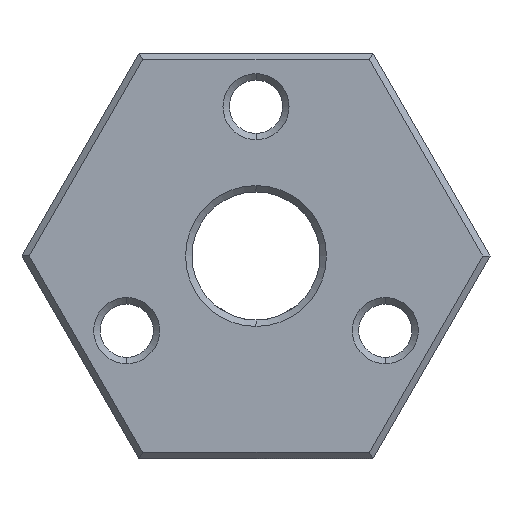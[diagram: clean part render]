
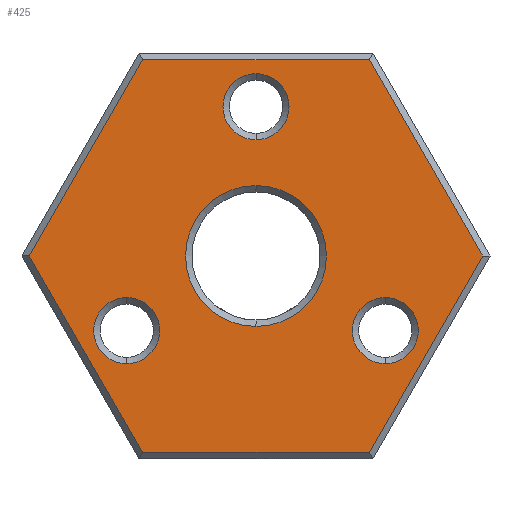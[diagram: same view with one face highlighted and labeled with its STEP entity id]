
A CAD part, front view. The second image highlights one B-rep face of the part: STEP entity #425.
In plain terms, the highlighted planar face has unit normal (0, -1, 0).
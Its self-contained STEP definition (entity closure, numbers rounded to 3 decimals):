
#11 = ORIENTED_EDGE ( 'NONE', *, *, #483, .T. ) ;
#50 = FACE_BOUND ( 'NONE', #1046, .T. ) ;
#53 = EDGE_CURVE ( 'NONE', #1126, #278, #347, .T. ) ;
#54 = DIRECTION ( 'NONE',  ( 0., 0., 1. ) ) ;
#71 = EDGE_CURVE ( 'NONE', #930, #183, #672, .T. ) ;
#76 = ORIENTED_EDGE ( 'NONE', *, *, #53, .T. ) ;
#82 = DIRECTION ( 'NONE',  ( 1., 0., 0. ) ) ;
#114 = AXIS2_PLACEMENT_3D ( 'NONE', #1251, #147, #1273 ) ;
#117 = LINE ( 'NONE', #715, #290 ) ;
#147 = DIRECTION ( 'NONE',  ( 0., 1., 0. ) ) ;
#150 = CARTESIAN_POINT ( 'NONE',  ( 0., 0., 0. ) ) ;
#157 = DIRECTION ( 'NONE',  ( -0.5, 0., -0.866 ) ) ;
#177 = DIRECTION ( 'NONE',  ( 0., 1., 0. ) ) ;
#183 = VERTEX_POINT ( 'NONE', #334 ) ;
#195 = EDGE_CURVE ( 'NONE', #408, #1026, #1441, .T. ) ;
#198 = VERTEX_POINT ( 'NONE', #1563 ) ;
#232 = VERTEX_POINT ( 'NONE', #831 ) ;
#235 = EDGE_CURVE ( 'NONE', #258, #977, #1050, .T. ) ;
#258 = VERTEX_POINT ( 'NONE', #1411 ) ;
#267 = DIRECTION ( 'NONE',  ( 0., 0., 1. ) ) ;
#278 = VERTEX_POINT ( 'NONE', #560 ) ;
#283 = CARTESIAN_POINT ( 'NONE',  ( -6.062, 0., -3.5 ) ) ;
#290 = VECTOR ( 'NONE', #1080, 1000. ) ;
#292 = CARTESIAN_POINT ( 'NONE',  ( -6.062, 0., -3.5 ) ) ;
#296 = CARTESIAN_POINT ( 'NONE',  ( 5.312, 0., 9.2 ) ) ;
#318 = VERTEX_POINT ( 'NONE', #1492 ) ;
#322 = AXIS2_PLACEMENT_3D ( 'NONE', #150, #886, #267 ) ;
#334 = CARTESIAN_POINT ( 'NONE',  ( 6.062, 0., -5.05 ) ) ;
#347 = CIRCLE ( 'NONE', #114, 1.55 ) ;
#350 = EDGE_CURVE ( 'NONE', #278, #1126, #1494, .T. ) ;
#356 = CARTESIAN_POINT ( 'NONE',  ( 7.967, 0., 4.6 ) ) ;
#357 = ORIENTED_EDGE ( 'NONE', *, *, #1181, .T. ) ;
#364 = EDGE_CURVE ( 'NONE', #318, #258, #800, .T. ) ;
#367 = ORIENTED_EDGE ( 'NONE', *, *, #892, .T. ) ;
#387 = VECTOR ( 'NONE', #692, 1000. ) ;
#408 = VERTEX_POINT ( 'NONE', #296 ) ;
#413 = LINE ( 'NONE', #1398, #1125 ) ;
#419 = DIRECTION ( 'NONE',  ( 0., 1., 0. ) ) ;
#424 = CIRCLE ( 'NONE', #322, 3.3 ) ;
#425 = ADVANCED_FACE ( 'NONE', ( #1278, #914, #50, #538, #665 ), #1408, .F. ) ;
#445 = DIRECTION ( 'NONE',  ( -1., 0., 0. ) ) ;
#467 = CIRCLE ( 'NONE', #1368, 1.55 ) ;
#483 = EDGE_CURVE ( 'NONE', #198, #318, #117, .T. ) ;
#484 = DIRECTION ( 'NONE',  ( 0., 1., 0. ) ) ;
#486 = ORIENTED_EDGE ( 'NONE', *, *, #235, .T. ) ;
#498 = VERTEX_POINT ( 'NONE', #1318 ) ;
#500 = DIRECTION ( 'NONE',  ( 0., 0., 1. ) ) ;
#515 = CIRCLE ( 'NONE', #1416, 1.55 ) ;
#517 = AXIS2_PLACEMENT_3D ( 'NONE', #1220, #484, #1463 ) ;
#538 = FACE_BOUND ( 'NONE', #781, .T. ) ;
#545 = EDGE_CURVE ( 'NONE', #977, #408, #1453, .T. ) ;
#560 = CARTESIAN_POINT ( 'NONE',  ( 0., 0., 8.55 ) ) ;
#567 = CARTESIAN_POINT ( 'NONE',  ( 7.967, 0., -4.6 ) ) ;
#578 = CARTESIAN_POINT ( 'NONE',  ( -5.312, 0., 9.2 ) ) ;
#607 = ORIENTED_EDGE ( 'NONE', *, *, #1573, .T. ) ;
#647 = DIRECTION ( 'NONE',  ( 0., 1., 0. ) ) ;
#650 = ORIENTED_EDGE ( 'NONE', *, *, #364, .T. ) ;
#663 = DIRECTION ( 'NONE',  ( 0., 0., 1. ) ) ;
#665 = FACE_BOUND ( 'NONE', #1216, .T. ) ;
#672 = CIRCLE ( 'NONE', #1038, 1.55 ) ;
#675 = DIRECTION ( 'NONE',  ( 0., 0., 1. ) ) ;
#679 = CARTESIAN_POINT ( 'NONE',  ( 6.062, 0., -1.95 ) ) ;
#681 = DIRECTION ( 'NONE',  ( 0., 1., 0. ) ) ;
#692 = DIRECTION ( 'NONE',  ( 0.5, 0., 0.866 ) ) ;
#715 = CARTESIAN_POINT ( 'NONE',  ( -7.967, 0., -4.6 ) ) ;
#753 = CARTESIAN_POINT ( 'NONE',  ( 0., 0., 5.45 ) ) ;
#767 = CARTESIAN_POINT ( 'NONE',  ( 0., 0., 0. ) ) ;
#771 = VECTOR ( 'NONE', #807, 1000. ) ;
#781 = EDGE_LOOP ( 'NONE', ( #1556, #1526 ) ) ;
#782 = CARTESIAN_POINT ( 'NONE',  ( 0., 0., 0. ) ) ;
#784 = ORIENTED_EDGE ( 'NONE', *, *, #195, .T. ) ;
#787 = DIRECTION ( 'NONE',  ( 0., 1., 0. ) ) ;
#800 = LINE ( 'NONE', #1502, #1571 ) ;
#806 = CARTESIAN_POINT ( 'NONE',  ( 10.623, 0., 0. ) ) ;
#807 = DIRECTION ( 'NONE',  ( -0.5, 0., 0.866 ) ) ;
#817 = ORIENTED_EDGE ( 'NONE', *, *, #350, .T. ) ;
#827 = EDGE_CURVE ( 'NONE', #1026, #198, #413, .T. ) ;
#831 = CARTESIAN_POINT ( 'NONE',  ( -6.062, 0., -1.95 ) ) ;
#860 = CARTESIAN_POINT ( 'NONE',  ( 6.062, 0., -3.5 ) ) ;
#886 = DIRECTION ( 'NONE',  ( 0., 1., 0. ) ) ;
#887 = AXIS2_PLACEMENT_3D ( 'NONE', #860, #647, #500 ) ;
#892 = EDGE_CURVE ( 'NONE', #498, #1279, #1219, .T. ) ;
#914 = FACE_BOUND ( 'NONE', #1427, .T. ) ;
#918 = CARTESIAN_POINT ( 'NONE',  ( -6.062, 0., -5.05 ) ) ;
#920 = ORIENTED_EDGE ( 'NONE', *, *, #545, .T. ) ;
#926 = ORIENTED_EDGE ( 'NONE', *, *, #827, .T. ) ;
#930 = VERTEX_POINT ( 'NONE', #679 ) ;
#977 = VERTEX_POINT ( 'NONE', #806 ) ;
#1018 = CARTESIAN_POINT ( 'NONE',  ( 6.062, 0., -3.5 ) ) ;
#1019 = ORIENTED_EDGE ( 'NONE', *, *, #1248, .T. ) ;
#1026 = VERTEX_POINT ( 'NONE', #578 ) ;
#1038 = AXIS2_PLACEMENT_3D ( 'NONE', #1018, #419, #1146 ) ;
#1046 = EDGE_LOOP ( 'NONE', ( #357, #1019 ) ) ;
#1050 = LINE ( 'NONE', #567, #387 ) ;
#1080 = DIRECTION ( 'NONE',  ( 0.5, 0., -0.866 ) ) ;
#1092 = AXIS2_PLACEMENT_3D ( 'NONE', #782, #177, #663 ) ;
#1125 = VECTOR ( 'NONE', #157, 1000. ) ;
#1126 = VERTEX_POINT ( 'NONE', #753 ) ;
#1146 = DIRECTION ( 'NONE',  ( 0., 0., 1. ) ) ;
#1177 = DIRECTION ( 'NONE',  ( 0., 1., 0. ) ) ;
#1181 = EDGE_CURVE ( 'NONE', #1366, #232, #467, .T. ) ;
#1195 = CARTESIAN_POINT ( 'NONE',  ( 0., 0., -3.3 ) ) ;
#1216 = EDGE_LOOP ( 'NONE', ( #76, #817 ) ) ;
#1219 = CIRCLE ( 'NONE', #1092, 3.3 ) ;
#1220 = CARTESIAN_POINT ( 'NONE',  ( 0., 0., 7. ) ) ;
#1248 = EDGE_CURVE ( 'NONE', #232, #1366, #515, .T. ) ;
#1251 = CARTESIAN_POINT ( 'NONE',  ( 0., 0., 7. ) ) ;
#1263 = DIRECTION ( 'NONE',  ( 0., 0., 1. ) ) ;
#1273 = DIRECTION ( 'NONE',  ( 0., 0., 1. ) ) ;
#1278 = FACE_OUTER_BOUND ( 'NONE', #1328, .T. ) ;
#1279 = VERTEX_POINT ( 'NONE', #1195 ) ;
#1318 = CARTESIAN_POINT ( 'NONE',  ( 0., 0., 3.3 ) ) ;
#1328 = EDGE_LOOP ( 'NONE', ( #650, #486, #920, #784, #926, #11 ) ) ;
#1366 = VERTEX_POINT ( 'NONE', #918 ) ;
#1368 = AXIS2_PLACEMENT_3D ( 'NONE', #283, #787, #54 ) ;
#1378 = CIRCLE ( 'NONE', #887, 1.55 ) ;
#1398 = CARTESIAN_POINT ( 'NONE',  ( -7.967, 0., 4.6 ) ) ;
#1408 = PLANE ( 'NONE',  #1469 ) ;
#1411 = CARTESIAN_POINT ( 'NONE',  ( 5.312, 0., -9.2 ) ) ;
#1416 = AXIS2_PLACEMENT_3D ( 'NONE', #292, #1177, #675 ) ;
#1427 = EDGE_LOOP ( 'NONE', ( #607, #367 ) ) ;
#1441 = LINE ( 'NONE', #1528, #1521 ) ;
#1453 = LINE ( 'NONE', #356, #771 ) ;
#1463 = DIRECTION ( 'NONE',  ( 0., 0., 1. ) ) ;
#1469 = AXIS2_PLACEMENT_3D ( 'NONE', #767, #681, #1263 ) ;
#1492 = CARTESIAN_POINT ( 'NONE',  ( -5.312, 0., -9.2 ) ) ;
#1494 = CIRCLE ( 'NONE', #517, 1.55 ) ;
#1502 = CARTESIAN_POINT ( 'NONE',  ( 0., 0., -9.2 ) ) ;
#1512 = EDGE_CURVE ( 'NONE', #183, #930, #1378, .T. ) ;
#1521 = VECTOR ( 'NONE', #445, 1000. ) ;
#1526 = ORIENTED_EDGE ( 'NONE', *, *, #71, .T. ) ;
#1528 = CARTESIAN_POINT ( 'NONE',  ( 0., 0., 9.2 ) ) ;
#1556 = ORIENTED_EDGE ( 'NONE', *, *, #1512, .T. ) ;
#1563 = CARTESIAN_POINT ( 'NONE',  ( -10.623, 0., 0. ) ) ;
#1571 = VECTOR ( 'NONE', #82, 1000. ) ;
#1573 = EDGE_CURVE ( 'NONE', #1279, #498, #424, .T. ) ;
